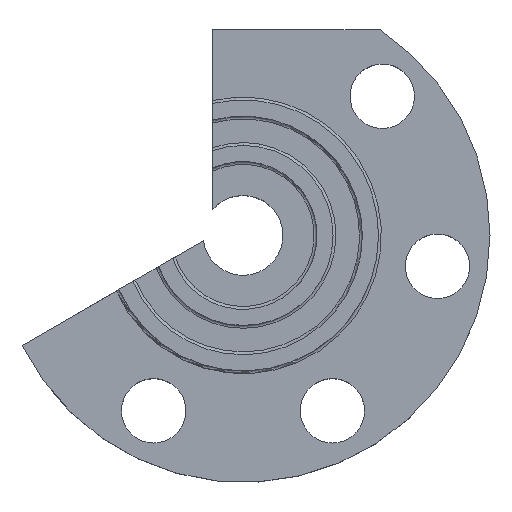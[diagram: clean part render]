
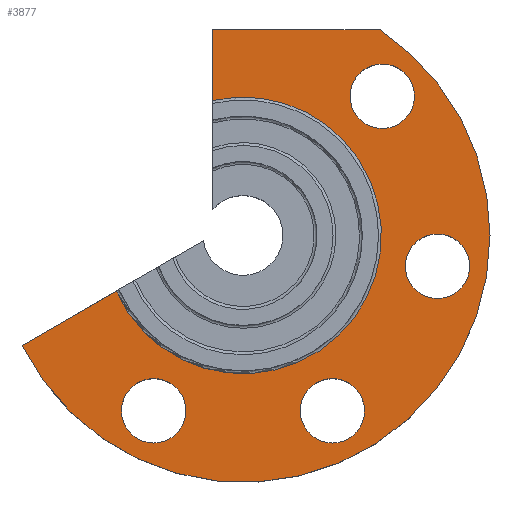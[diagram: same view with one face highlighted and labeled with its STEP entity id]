
A CAD part, top view. The second image highlights one B-rep face of the part: STEP entity #3877.
In plain terms, the highlighted planar face has unit normal (0, 0, 1).
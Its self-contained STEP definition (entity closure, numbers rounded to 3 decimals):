
#10 = FACE_BOUND ( 'NONE', #5368, .T. ) ;
#74 = CARTESIAN_POINT ( 'NONE',  ( 0., 0., 0. ) ) ;
#79 = EDGE_CURVE ( 'NONE', #2565, #3261, #9357, .T. ) ;
#459 = DIRECTION ( 'NONE',  ( 0., 0., 1. ) ) ;
#555 = CIRCLE ( 'NONE', #3880, 34.5 ) ;
#585 = CARTESIAN_POINT ( 'NONE',  ( -12.485, -24.503, 0. ) ) ;
#678 = VERTEX_POINT ( 'NONE', #7748 ) ;
#714 = CARTESIAN_POINT ( 'NONE',  ( -12.485, -24.503, 0. ) ) ;
#870 = LINE ( 'NONE', #1703, #2045 ) ;
#962 = DIRECTION ( 'NONE',  ( 0., 0., 1. ) ) ;
#1067 = DIRECTION ( 'NONE',  ( -1., 0., 0. ) ) ;
#1105 = AXIS2_PLACEMENT_3D ( 'NONE', #74, #2697, #1067 ) ;
#1181 = ORIENTED_EDGE ( 'NONE', *, *, #8420, .T. ) ;
#1196 = AXIS2_PLACEMENT_3D ( 'NONE', #9276, #5327, #1962 ) ;
#1224 = VERTEX_POINT ( 'NONE', #3615 ) ;
#1281 = EDGE_LOOP ( 'NONE', ( #6500, #5675 ) ) ;
#1398 = EDGE_CURVE ( 'NONE', #1224, #2825, #5376, .T. ) ;
#1420 = DIRECTION ( 'NONE',  ( 0., 0., 1. ) ) ;
#1439 = AXIS2_PLACEMENT_3D ( 'NONE', #4220, #962, #7617 ) ;
#1453 = ORIENTED_EDGE ( 'NONE', *, *, #1398, .T. ) ;
#1456 = DIRECTION ( 'NONE',  ( 1., 0., 0. ) ) ;
#1518 = ORIENTED_EDGE ( 'NONE', *, *, #9324, .T. ) ;
#1589 = CARTESIAN_POINT ( 'NONE',  ( 27.161, -4.302, 0. ) ) ;
#1703 = CARTESIAN_POINT ( 'NONE',  ( -4.25, 18.925, 0. ) ) ;
#1755 = EDGE_CURVE ( 'NONE', #2676, #8027, #555, .T. ) ;
#1781 = ORIENTED_EDGE ( 'NONE', *, *, #8813, .T. ) ;
#1802 = CARTESIAN_POINT ( 'NONE',  ( -4.25, 28.7, 0. ) ) ;
#1831 = DIRECTION ( 'NONE',  ( 1., 0., 0. ) ) ;
#1943 = CARTESIAN_POINT ( 'NONE',  ( 0., 18.925, 0. ) ) ;
#1962 = DIRECTION ( 'NONE',  ( 1., 0., 0. ) ) ;
#2029 = VERTEX_POINT ( 'NONE', #4077 ) ;
#2045 = VECTOR ( 'NONE', #3388, 1000. ) ;
#2115 = EDGE_CURVE ( 'NONE', #7995, #678, #2497, .T. ) ;
#2407 = DIRECTION ( 'NONE',  ( 1., 0., 0. ) ) ;
#2423 = LINE ( 'NONE', #7757, #6576 ) ;
#2497 = CIRCLE ( 'NONE', #1439, 4.5 ) ;
#2565 = VERTEX_POINT ( 'NONE', #4410 ) ;
#2588 = AXIS2_PLACEMENT_3D ( 'NONE', #585, #1420, #7961 ) ;
#2676 = VERTEX_POINT ( 'NONE', #2882 ) ;
#2689 = VECTOR ( 'NONE', #10286, 1000. ) ;
#2697 = DIRECTION ( 'NONE',  ( 0., 0., -1. ) ) ;
#2825 = VERTEX_POINT ( 'NONE', #5998 ) ;
#2878 = EDGE_CURVE ( 'NONE', #5690, #4603, #6906, .T. ) ;
#2882 = CARTESIAN_POINT ( 'NONE',  ( -30.884, -15.377, 0. ) ) ;
#2972 = ORIENTED_EDGE ( 'NONE', *, *, #1755, .T. ) ;
#3215 = CARTESIAN_POINT ( 'NONE',  ( 0., 0., 0. ) ) ;
#3234 = CIRCLE ( 'NONE', #6611, 4.5 ) ;
#3261 = VERTEX_POINT ( 'NONE', #7792 ) ;
#3269 = FACE_OUTER_BOUND ( 'NONE', #9949, .T. ) ;
#3280 = EDGE_LOOP ( 'NONE', ( #7557, #7647 ) ) ;
#3309 = DIRECTION ( 'NONE',  ( 0., 0., 1. ) ) ;
#3388 = DIRECTION ( 'NONE',  ( 0., -1., 0. ) ) ;
#3438 = CARTESIAN_POINT ( 'NONE',  ( 23.945, 19.445, 0. ) ) ;
#3538 = FACE_BOUND ( 'NONE', #3280, .T. ) ;
#3615 = CARTESIAN_POINT ( 'NONE',  ( -4.25, 18.852, 0. ) ) ;
#3638 = EDGE_CURVE ( 'NONE', #9994, #4616, #5235, .T. ) ;
#3655 = DIRECTION ( 'NONE',  ( 0., 0., -1. ) ) ;
#3850 = CARTESIAN_POINT ( 'NONE',  ( 12.485, -24.503, 0. ) ) ;
#3877 = ADVANCED_FACE ( 'NONE', ( #10, #9485, #5620, #3269, #3538 ), #9434, .F. ) ;
#3880 = AXIS2_PLACEMENT_3D ( 'NONE', #4350, #9176, #1831 ) ;
#3939 = AXIS2_PLACEMENT_3D ( 'NONE', #7678, #9372, #6984 ) ;
#4034 = EDGE_LOOP ( 'NONE', ( #7852, #5036 ) ) ;
#4077 = CARTESIAN_POINT ( 'NONE',  ( 19.146, 28.7, 0. ) ) ;
#4220 = CARTESIAN_POINT ( 'NONE',  ( 12.485, -24.503, 0. ) ) ;
#4350 = CARTESIAN_POINT ( 'NONE',  ( 0., 0., 0. ) ) ;
#4404 = CARTESIAN_POINT ( 'NONE',  ( 31.661, -4.302, 0. ) ) ;
#4410 = CARTESIAN_POINT ( 'NONE',  ( -7.985, -24.503, 0. ) ) ;
#4603 = VERTEX_POINT ( 'NONE', #5770 ) ;
#4616 = VERTEX_POINT ( 'NONE', #3438 ) ;
#4855 = AXIS2_PLACEMENT_3D ( 'NONE', #1943, #3655, #7702 ) ;
#5036 = ORIENTED_EDGE ( 'NONE', *, *, #2115, .F. ) ;
#5115 = EDGE_CURVE ( 'NONE', #678, #7995, #8436, .T. ) ;
#5218 = AXIS2_PLACEMENT_3D ( 'NONE', #5420, #459, #1456 ) ;
#5235 = CIRCLE ( 'NONE', #5218, 4.5 ) ;
#5327 = DIRECTION ( 'NONE',  ( 0., 0., 1. ) ) ;
#5368 = EDGE_LOOP ( 'NONE', ( #6023, #5765 ) ) ;
#5376 = CIRCLE ( 'NONE', #1105, 19.325 ) ;
#5420 = CARTESIAN_POINT ( 'NONE',  ( 19.445, 19.445, 0. ) ) ;
#5620 = FACE_BOUND ( 'NONE', #1281, .T. ) ;
#5639 = DIRECTION ( 'NONE',  ( 0., 0., 1. ) ) ;
#5675 = ORIENTED_EDGE ( 'NONE', *, *, #6951, .F. ) ;
#5690 = VERTEX_POINT ( 'NONE', #4404 ) ;
#5702 = CIRCLE ( 'NONE', #7145, 4.5 ) ;
#5737 = EDGE_CURVE ( 'NONE', #4616, #9994, #8184, .T. ) ;
#5765 = ORIENTED_EDGE ( 'NONE', *, *, #10483, .F. ) ;
#5770 = CARTESIAN_POINT ( 'NONE',  ( 22.661, -4.302, 0. ) ) ;
#5998 = CARTESIAN_POINT ( 'NONE',  ( -17.697, -7.764, 0. ) ) ;
#6023 = ORIENTED_EDGE ( 'NONE', *, *, #2878, .F. ) ;
#6423 = CARTESIAN_POINT ( 'NONE',  ( 34.5, 0., 0. ) ) ;
#6438 = DIRECTION ( 'NONE',  ( 1., 0., 0. ) ) ;
#6500 = ORIENTED_EDGE ( 'NONE', *, *, #79, .F. ) ;
#6576 = VECTOR ( 'NONE', #9376, 1000. ) ;
#6611 = AXIS2_PLACEMENT_3D ( 'NONE', #1589, #3309, #9077 ) ;
#6876 = CARTESIAN_POINT ( 'NONE',  ( 7.132, 6.572, 0. ) ) ;
#6906 = CIRCLE ( 'NONE', #3939, 4.5 ) ;
#6951 = EDGE_CURVE ( 'NONE', #3261, #2565, #5702, .T. ) ;
#6984 = DIRECTION ( 'NONE',  ( 1., 0., 0. ) ) ;
#7145 = AXIS2_PLACEMENT_3D ( 'NONE', #714, #9695, #7227 ) ;
#7227 = DIRECTION ( 'NONE',  ( 1., 0., 0. ) ) ;
#7381 = VERTEX_POINT ( 'NONE', #1802 ) ;
#7557 = ORIENTED_EDGE ( 'NONE', *, *, #5737, .F. ) ;
#7617 = DIRECTION ( 'NONE',  ( 1., 0., 0. ) ) ;
#7647 = ORIENTED_EDGE ( 'NONE', *, *, #3638, .F. ) ;
#7678 = CARTESIAN_POINT ( 'NONE',  ( 27.161, -4.302, 0. ) ) ;
#7702 = DIRECTION ( 'NONE',  ( -1., 0., 0. ) ) ;
#7748 = CARTESIAN_POINT ( 'NONE',  ( 16.985, -24.503, 0. ) ) ;
#7757 = CARTESIAN_POINT ( 'NONE',  ( 0., 28.7, 0. ) ) ;
#7792 = CARTESIAN_POINT ( 'NONE',  ( -16.985, -24.503, 0. ) ) ;
#7852 = ORIENTED_EDGE ( 'NONE', *, *, #5115, .F. ) ;
#7961 = DIRECTION ( 'NONE',  ( 1., 0., 0. ) ) ;
#7995 = VERTEX_POINT ( 'NONE', #10445 ) ;
#8027 = VERTEX_POINT ( 'NONE', #6423 ) ;
#8184 = CIRCLE ( 'NONE', #1196, 4.5 ) ;
#8420 = EDGE_CURVE ( 'NONE', #8027, #2029, #8889, .T. ) ;
#8436 = CIRCLE ( 'NONE', #9302, 4.5 ) ;
#8686 = AXIS2_PLACEMENT_3D ( 'NONE', #3215, #9867, #2407 ) ;
#8813 = EDGE_CURVE ( 'NONE', #7381, #1224, #870, .T. ) ;
#8889 = CIRCLE ( 'NONE', #8686, 34.5 ) ;
#9020 = EDGE_CURVE ( 'NONE', #7381, #2029, #2423, .T. ) ;
#9077 = DIRECTION ( 'NONE',  ( 1., 0., 0. ) ) ;
#9176 = DIRECTION ( 'NONE',  ( 0., 0., 1. ) ) ;
#9276 = CARTESIAN_POINT ( 'NONE',  ( 19.445, 19.445, 0. ) ) ;
#9302 = AXIS2_PLACEMENT_3D ( 'NONE', #3850, #5639, #6438 ) ;
#9324 = EDGE_CURVE ( 'NONE', #2825, #2676, #9803, .T. ) ;
#9357 = CIRCLE ( 'NONE', #2588, 4.5 ) ;
#9372 = DIRECTION ( 'NONE',  ( 0., 0., 1. ) ) ;
#9376 = DIRECTION ( 'NONE',  ( 1., 0., 0. ) ) ;
#9434 = PLANE ( 'NONE',  #4855 ) ;
#9485 = FACE_BOUND ( 'NONE', #4034, .T. ) ;
#9695 = DIRECTION ( 'NONE',  ( 0., 0., 1. ) ) ;
#9803 = LINE ( 'NONE', #6876, #2689 ) ;
#9839 = ORIENTED_EDGE ( 'NONE', *, *, #9020, .F. ) ;
#9867 = DIRECTION ( 'NONE',  ( 0., 0., 1. ) ) ;
#9949 = EDGE_LOOP ( 'NONE', ( #1453, #1518, #2972, #1181, #9839, #1781 ) ) ;
#9994 = VERTEX_POINT ( 'NONE', #10315 ) ;
#10286 = DIRECTION ( 'NONE',  ( -0.866, -0.5, 0. ) ) ;
#10315 = CARTESIAN_POINT ( 'NONE',  ( 14.945, 19.445, 0. ) ) ;
#10445 = CARTESIAN_POINT ( 'NONE',  ( 7.985, -24.503, 0. ) ) ;
#10483 = EDGE_CURVE ( 'NONE', #4603, #5690, #3234, .T. ) ;
